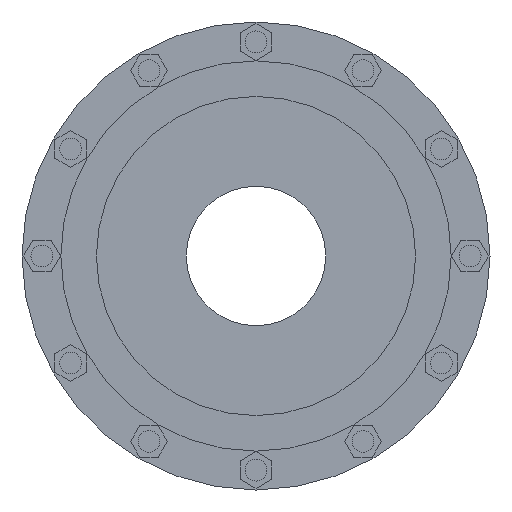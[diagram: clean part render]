
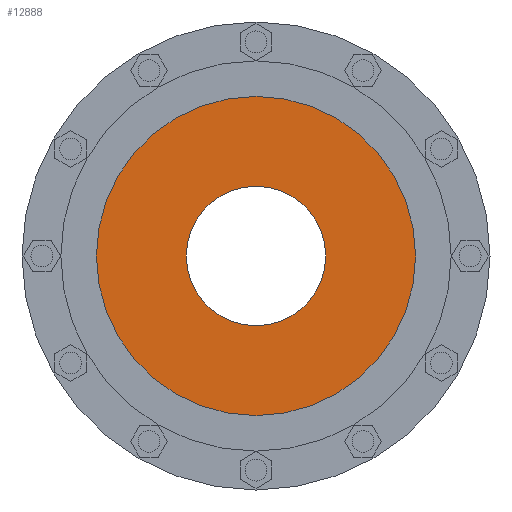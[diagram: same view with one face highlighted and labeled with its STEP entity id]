
A CAD part, left-side view. The second image highlights one B-rep face of the part: STEP entity #12888.
In plain terms, the highlighted planar face has unit normal (-1, 0, 0).
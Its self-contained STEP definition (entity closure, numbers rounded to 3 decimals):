
#12586=CARTESIAN_POINT('',(-347.,0.,0.));
#12587=DIRECTION('',(1.,0.,0.));
#12588=DIRECTION('',(0.,1.,0.));
#12589=AXIS2_PLACEMENT_3D('',#12586,#12587,#12588);
#12665=CARTESIAN_POINT('',(-347.,0.,0.));
#12666=DIRECTION('',(-1.,0.,0.));
#12667=DIRECTION('',(0.,1.,0.));
#12668=AXIS2_PLACEMENT_3D('',#12665,#12666,#12667);
#12670=CARTESIAN_POINT('',(-347.,0.,0.));
#12671=DIRECTION('',(1.,0.,0.));
#12672=DIRECTION('',(0.,1.,0.));
#12673=AXIS2_PLACEMENT_3D('',#12670,#12671,#12672);
#12684=CARTESIAN_POINT('',(-347.,0.,0.));
#12685=DIRECTION('',(-1.,0.,0.));
#12686=DIRECTION('',(0.,1.,0.));
#12687=AXIS2_PLACEMENT_3D('',#12684,#12685,#12686);
#12693=CARTESIAN_POINT('',(-347.,70.,0.));
#12694=CARTESIAN_POINT('',(-347.,-70.,0.));
#12695=VERTEX_POINT('',#12693);
#12696=VERTEX_POINT('',#12694);
#12697=CARTESIAN_POINT('',(-347.,160.25,0.));
#12698=CARTESIAN_POINT('',(-347.,-160.25,0.));
#12699=VERTEX_POINT('',#12697);
#12700=VERTEX_POINT('',#12698);
#12874=CARTESIAN_POINT('',(-347.,0.,0.));
#12875=DIRECTION('',(1.,0.,0.));
#12876=DIRECTION('',(0.,-1.,0.));
#12877=AXIS2_PLACEMENT_3D('',#12874,#12875,#12876);
#12878=PLANE('',#12877);
#12879=ORIENTED_EDGE('',*,*,#12856,.F.);
#12880=ORIENTED_EDGE('',*,*,#12869,.T.);
#12881=EDGE_LOOP('',(#12879,#12880));
#12882=FACE_OUTER_BOUND('',#12881,.F.);
#12883=ORIENTED_EDGE('',*,*,#12734,.F.);
#12885=ORIENTED_EDGE('',*,*,#12884,.T.);
#12886=EDGE_LOOP('',(#12883,#12885));
#12887=FACE_BOUND('',#12886,.F.);
#12888=ADVANCED_FACE('',(#12882,#12887),#12878,.F.);
#12590=CIRCLE('',#12589,70.);
#12669=CIRCLE('',#12668,160.25);
#12674=CIRCLE('',#12673,160.25);
#12688=CIRCLE('',#12687,70.);
#12734=EDGE_CURVE('',#12695,#12696,#12590,.T.);
#12856=EDGE_CURVE('',#12699,#12700,#12669,.T.);
#12869=EDGE_CURVE('',#12699,#12700,#12674,.T.);
#12884=EDGE_CURVE('',#12695,#12696,#12688,.T.);
